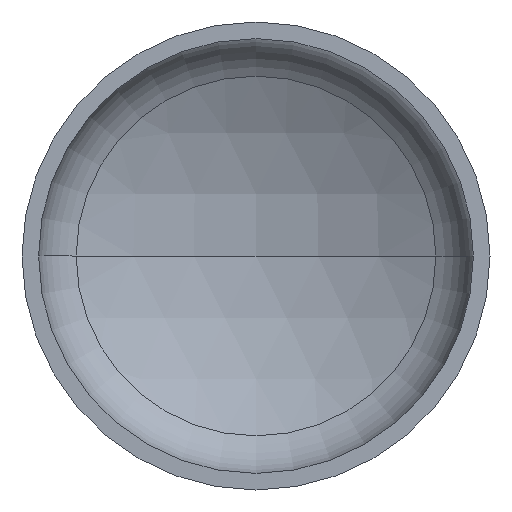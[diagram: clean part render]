
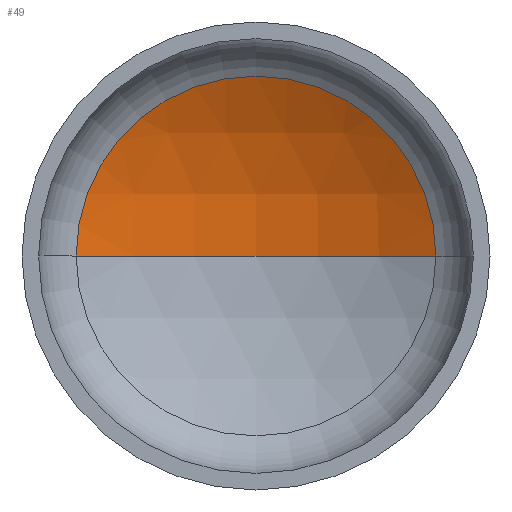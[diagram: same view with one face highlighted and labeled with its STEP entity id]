
A CAD part, front view. The second image highlights one B-rep face of the part: STEP entity #49.
In plain terms, the highlighted spherical face has radius 1760 mm.
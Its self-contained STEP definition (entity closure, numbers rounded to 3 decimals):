
#12 = DIRECTION ( 'NONE',  ( -1., 0., 0. ) ) ;
#24 = EDGE_LOOP ( 'NONE', ( #133, #62, #53 ) ) ;
#30 = DIRECTION ( 'NONE',  ( 0., 0., -1. ) ) ;
#32 = CARTESIAN_POINT ( 'NONE',  ( 0., -1125.502, 0. ) ) ;
#33 = AXIS2_PLACEMENT_3D ( 'NONE', #220, #221, #255 ) ;
#35 = AXIS2_PLACEMENT_3D ( 'NONE', #32, #30, #12 ) ;
#39 = AXIS2_PLACEMENT_3D ( 'NONE', #200, #276, #79 ) ;
#49 = ADVANCED_FACE ( 'NONE', ( #374 ), #311, .F. ) ;
#53 = ORIENTED_EDGE ( 'NONE', *, *, #94, .T. ) ;
#62 = ORIENTED_EDGE ( 'NONE', *, *, #113, .T. ) ;
#68 = AXIS2_PLACEMENT_3D ( 'NONE', #289, #248, #367 ) ;
#79 = DIRECTION ( 'NONE',  ( 1., 0., 0. ) ) ;
#94 = EDGE_CURVE ( 'NONE', #125, #104, #293, .T. ) ;
#104 = VERTEX_POINT ( 'NONE', #199 ) ;
#113 = EDGE_CURVE ( 'NONE', #163, #125, #234, .T. ) ;
#125 = VERTEX_POINT ( 'NONE', #211 ) ;
#133 = ORIENTED_EDGE ( 'NONE', *, *, #152, .F. ) ;
#152 = EDGE_CURVE ( 'NONE', #163, #104, #406, .T. ) ;
#163 = VERTEX_POINT ( 'NONE', #262 ) ;
#199 = CARTESIAN_POINT ( 'NONE',  ( -845.296, 418.219, 0. ) ) ;
#200 = CARTESIAN_POINT ( 'NONE',  ( 0., 418.219, 0. ) ) ;
#211 = CARTESIAN_POINT ( 'NONE',  ( 845.296, 418.219, 0. ) ) ;
#220 = CARTESIAN_POINT ( 'NONE',  ( 0., -1125.502, 0. ) ) ;
#221 = DIRECTION ( 'NONE',  ( 0., 0., 1. ) ) ;
#234 = CIRCLE ( 'NONE', #35, 1760. ) ;
#248 = DIRECTION ( 'NONE',  ( 0., 0., -1. ) ) ;
#255 = DIRECTION ( 'NONE',  ( 1., 0., 0. ) ) ;
#262 = CARTESIAN_POINT ( 'NONE',  ( 0., 634.498, 0. ) ) ;
#276 = DIRECTION ( 'NONE',  ( 0., -1., 0. ) ) ;
#289 = CARTESIAN_POINT ( 'NONE',  ( 0., -1125.502, 0. ) ) ;
#293 = CIRCLE ( 'NONE', #39, 845.296 ) ;
#311 = SPHERICAL_SURFACE ( 'NONE', #68, 1760. ) ;
#367 = DIRECTION ( 'NONE',  ( -1., 0., 0. ) ) ;
#374 = FACE_OUTER_BOUND ( 'NONE', #24, .T. ) ;
#406 = CIRCLE ( 'NONE', #33, 1760. ) ;
